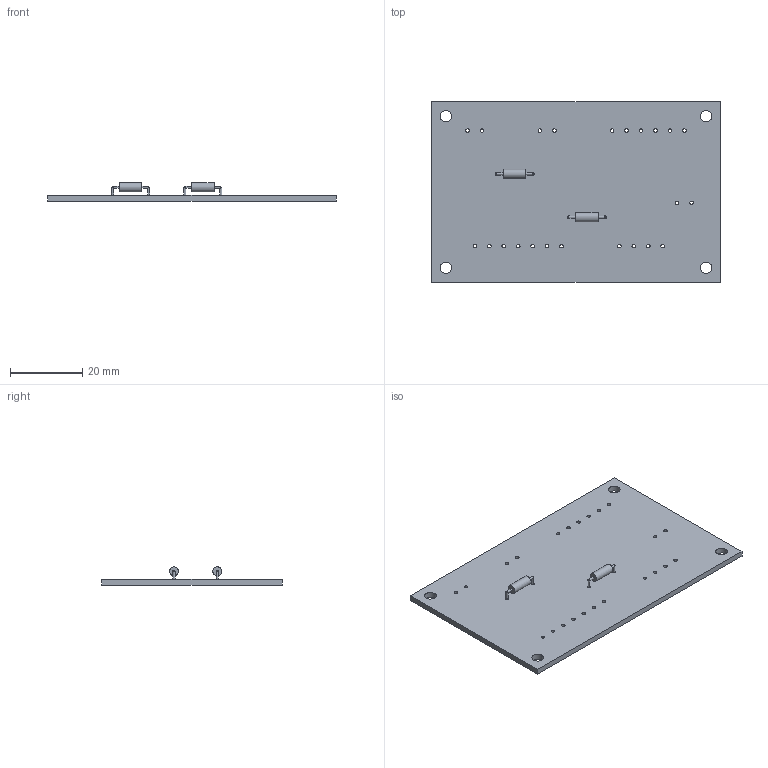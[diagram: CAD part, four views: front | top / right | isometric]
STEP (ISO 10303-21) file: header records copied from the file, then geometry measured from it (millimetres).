
FILE_DESCRIPTION(('KiCad electronic assembly'),'2;1');
FILE_NAME('pcb_populated.step','2026-10-05T13:07:43',('Pcbnew'),('Kicad' ),'Open CASCADE STEP processor 7.6','KiCad to STEP converter', 'Unknown');
FILE_SCHEMA(('AUTOMOTIVE_DESIGN { 1 0 10303 214 1 1 1 1 }'));
Length unit declared in the file: millimetre
Products named in the file (4): pcb_populated 1; resistor_axial; Open CASCADE STEP translator 7.8 4; DI_Box PCB
Assembly tree (4 placements, depth 3):
  pcb_populated 1
    resistor_axial  x2
      Open CASCADE STEP translator 7.8 4
    DI_Box PCB
Bounding box: 80 x 50 x 5.1 mm (x, y, z)
Volume: 6382.7 mm3; surface area: 8656.4 mm2
Topology: 3 solids, 3 shells, 63 faces, 151 edges, 98 vertices
Faces by surface type: cylinder 41, plane 22
Full cylindrical faces by diameter (mm): 0.6 x8, 0.8 x4, 1 x23, 2.5 x2, 3.2 x4
Entity records: 3653 total; most frequent: CARTESIAN_POINT 939, DIRECTION 504, ORIENTED_EDGE 256, PCURVE 256, DEFINITIONAL_REPRESENTATION 256, LINE 225, VECTOR 225, AXIS2_PLACEMENT_3D 133
